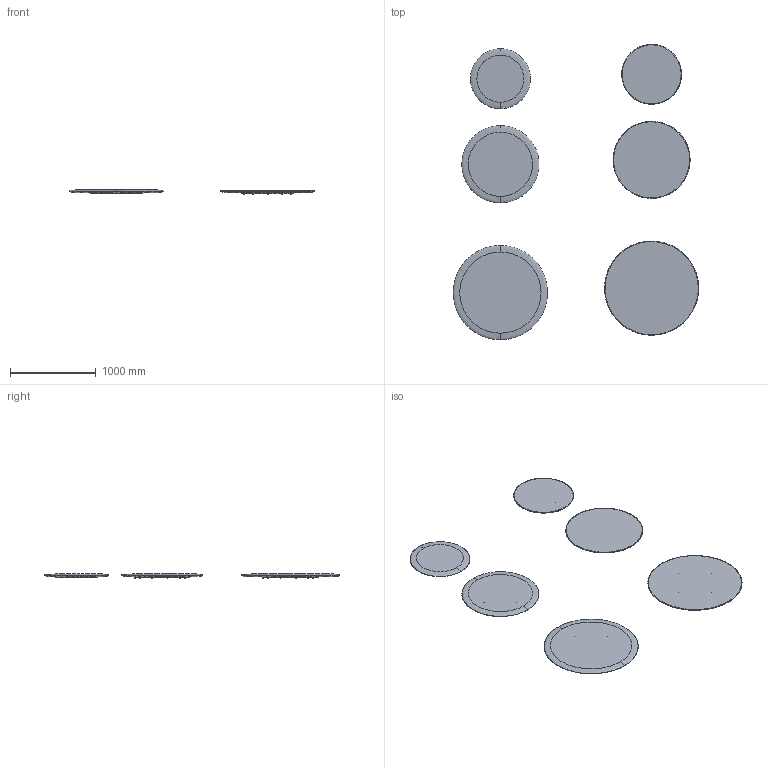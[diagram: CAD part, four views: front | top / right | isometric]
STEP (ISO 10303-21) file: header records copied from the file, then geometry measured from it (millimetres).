
FILE_DESCRIPTION(/* description */ (''),/* implementation_level */ '2;1');
FILE_NAME(/* name */ 'LAZY SUSAN',/* time_stamp */ '2026-05-11T17:13:12+02:00',/* author */ (''),/* organization */ (''),/* preprocessor_version */ 'ST-DEVELOPER v16.5',/* originating_system */ 'Rhino 7.36',/* authorisation */ '');
FILE_SCHEMA (('CONFIG_CONTROL_DESIGN'));
Length unit declared in the file: millimetre
Products named in the file (20): Document; Lazy Susan_Ø700_MARMO; LAZY SUSAN_DIAM 700_MARMO; ralla FBC_Ø450_Ø450 h15.5 (FBC); Lazy Susan_Ø900_MARMO; RALLA_LAZY SUSAN_Ø60023; LAZY SUSAN_DIAM 900_MARMO; Lazy Susan_Ø700; ralla FBC_Ø450_Ø450 h15.5 (FBC)2; LAZY SUSAN_DIAM 700; Blocco 02; Lazy Susan_Ø900; RALLA_LAZY SUSAN_Ø6002; LAZY SUSAN_DIAM 900; Lazy Susan_Ø1100_MARMO8; RALLA_LAZY SUSAN_Ø6002345; LAZY SUSAN_DIAM 1100_MARMO7; Lazy Susan_Ø1100; RALLA_LAZY SUSAN_Ø600234; LAZY SUSAN_DIAM 1100
Assembly tree (19 placements, depth 4):
  Document
    Lazy Susan_Ø700_MARMO
      LAZY SUSAN_DIAM 700_MARMO
      ralla FBC_Ø450_Ø450 h15.5 (FBC)
    Lazy Susan_Ø900_MARMO
      RALLA_LAZY SUSAN_Ø60023
      LAZY SUSAN_DIAM 900_MARMO
    Lazy Susan_Ø700
      ralla FBC_Ø450_Ø450 h15.5 (FBC)2
      LAZY SUSAN_DIAM 700
        Blocco 02
    Lazy Susan_Ø900
      RALLA_LAZY SUSAN_Ø6002
      LAZY SUSAN_DIAM 900
    Lazy Susan_Ø1100_MARMO8
      RALLA_LAZY SUSAN_Ø6002345
      LAZY SUSAN_DIAM 1100_MARMO7
    Lazy Susan_Ø1100
      RALLA_LAZY SUSAN_Ø600234
      LAZY SUSAN_DIAM 1100
Bounding box: 2866.35 x 3451.54 x 47 mm (x, y, z)
Volume: 92832188.9 mm3; surface area: 9584687 mm2
Topology: 61 solids, 61 shells, 590 faces, 1174 edges, 766 vertices
Faces by surface type: cylinder 346, plane 182, bspline 62
Entity records: 20452 total; most frequent: CARTESIAN_POINT 10105, ORIENTED_EDGE 2348, EDGE_CURVE 1174, VERTEX_POINT 766, EDGE_LOOP 734, DIRECTION 630, ADVANCED_FACE 590, FACE_OUTER_BOUND 590
